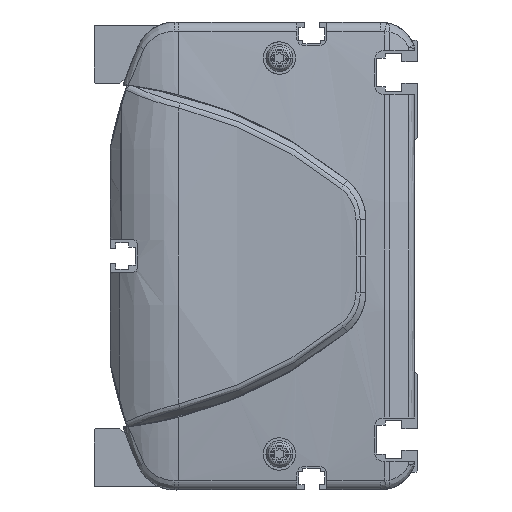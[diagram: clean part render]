
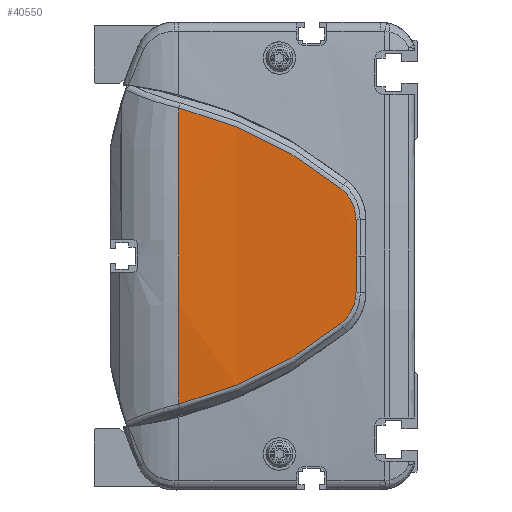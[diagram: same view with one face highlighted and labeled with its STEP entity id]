
A CAD part, left-side view. The second image highlights one B-rep face of the part: STEP entity #40550.
In plain terms, the highlighted cylindrical face has radius 500 mm (diameter 1000 mm), a partial arc.
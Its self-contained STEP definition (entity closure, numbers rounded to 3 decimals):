
#36806=CARTESIAN_POINT('',(486.,66.362,0.));
#36807=DIRECTION('',(0.,-1.,0.));
#36808=DIRECTION('',(-0.997,0.,0.082));
#36809=AXIS2_PLACEMENT_3D('',#36806,#36807,#36808);
#37690=CARTESIAN_POINT('',(-13.648,21.313,
-18.759));
#37691=CARTESIAN_POINT('',(-13.449,27.904,
-24.058));
#37692=CARTESIAN_POINT('',(-12.934,42.195,
-33.27));
#37693=CARTESIAN_POINT('',(-12.471,58.156,
-39.127));
#37694=CARTESIAN_POINT('',(-12.306,66.362,
-41.121));
#37696=CARTESIAN_POINT('',(-12.306,66.362,
41.121));
#37697=CARTESIAN_POINT('',(-12.471,58.156,
39.127));
#37698=CARTESIAN_POINT('',(-12.934,42.195,
33.27));
#37699=CARTESIAN_POINT('',(-13.449,27.904,
24.058));
#37700=CARTESIAN_POINT('',(-13.648,21.313,
18.759));
#37702=CARTESIAN_POINT('',(-13.648,21.313,
18.759));
#37703=CARTESIAN_POINT('',(-13.686,20.035,
17.736));
#37704=CARTESIAN_POINT('',(-13.779,17.936,
15.107));
#37705=CARTESIAN_POINT('',(-13.863,17.152,
11.827));
#37706=CARTESIAN_POINT('',(-13.896,17.124,
10.178));
#37708=CARTESIAN_POINT('',(-13.896,17.124,
10.178));
#37709=CARTESIAN_POINT('',(-13.92,17.107,
9.027));
#37710=CARTESIAN_POINT('',(-13.958,17.067,
6.737));
#37711=CARTESIAN_POINT('',(-13.993,16.98,
3.343));
#37712=CARTESIAN_POINT('',(-14.,16.898,
1.109));
#37713=CARTESIAN_POINT('',(-14.,16.849,
0.));
#37715=CARTESIAN_POINT('',(-14.,16.849,
0.));
#37716=CARTESIAN_POINT('',(-14.,16.898,
-1.109));
#37717=CARTESIAN_POINT('',(-13.993,16.98,
-3.343));
#37718=CARTESIAN_POINT('',(-13.959,17.067,
-6.736));
#37719=CARTESIAN_POINT('',(-13.92,17.107,
-9.029));
#37720=CARTESIAN_POINT('',(-13.896,17.124,
-10.18));
#37722=CARTESIAN_POINT('',(-13.896,17.124,
-10.18));
#37723=CARTESIAN_POINT('',(-13.863,17.152,
-11.828));
#37724=CARTESIAN_POINT('',(-13.779,17.937,
-15.109));
#37725=CARTESIAN_POINT('',(-13.686,20.035,
-17.736));
#37726=CARTESIAN_POINT('',(-13.648,21.313,
-18.759));
#38374=VERTEX_POINT('',#37690);
#38375=VERTEX_POINT('',#37694);
#38376=CARTESIAN_POINT('',(-12.306,66.362,
41.121));
#38377=VERTEX_POINT('',#38376);
#38378=VERTEX_POINT('',#37700);
#38379=VERTEX_POINT('',#37706);
#38380=VERTEX_POINT('',#37713);
#38381=VERTEX_POINT('',#37720);
#40531=CARTESIAN_POINT('',(486.,8.006,0.));
#40532=DIRECTION('',(0.,1.,0.));
#40533=DIRECTION('',(1.,0.,0.));
#40534=AXIS2_PLACEMENT_3D('',#40531,#40532,#40533);
#40535=CYLINDRICAL_SURFACE('',#40534,500.);
#40537=ORIENTED_EDGE('',*,*,#40536,.T.);
#40538=ORIENTED_EDGE('',*,*,#39176,.F.);
#40540=ORIENTED_EDGE('',*,*,#40539,.T.);
#40542=ORIENTED_EDGE('',*,*,#40541,.T.);
#40544=ORIENTED_EDGE('',*,*,#40543,.T.);
#40546=ORIENTED_EDGE('',*,*,#40545,.T.);
#40547=ORIENTED_EDGE('',*,*,#40521,.T.);
#40548=EDGE_LOOP('',(#40537,#40538,#40540,#40542,#40544,#40546,#40547));
#40549=FACE_OUTER_BOUND('',#40548,.F.);
#40550=ADVANCED_FACE('',(#40549),#40535,.T.);
#36810=CIRCLE('',#36809,500.);
#37695=B_SPLINE_CURVE_WITH_KNOTS('',3,(#37690,#37691,#37692,#37693,#37694),
.UNSPECIFIED.,.F.,.F.,(4,1,4),(0.,0.5,1.),.UNSPECIFIED.);
#37701=B_SPLINE_CURVE_WITH_KNOTS('',3,(#37696,#37697,#37698,#37699,#37700),
.UNSPECIFIED.,.F.,.F.,(4,1,4),(0.,0.5,1.),.UNSPECIFIED.);
#37707=B_SPLINE_CURVE_WITH_KNOTS('',3,(#37702,#37703,#37704,#37705,#37706),
.UNSPECIFIED.,.F.,.F.,(4,1,4),(0.,0.5,1.),.UNSPECIFIED.);
#37714=B_SPLINE_CURVE_WITH_KNOTS('',3,(#37708,#37709,#37710,#37711,#37712,
#37713),.UNSPECIFIED.,.F.,.F.,(4,1,1,4),(0.,0.333,
0.667,1.),.UNSPECIFIED.);
#37721=B_SPLINE_CURVE_WITH_KNOTS('',3,(#37715,#37716,#37717,#37718,#37719,
#37720),.UNSPECIFIED.,.F.,.F.,(4,1,1,4),(0.,0.333,
0.667,1.),.UNSPECIFIED.);
#37727=B_SPLINE_CURVE_WITH_KNOTS('',3,(#37722,#37723,#37724,#37725,#37726),
.UNSPECIFIED.,.F.,.F.,(4,1,4),(0.,0.5,1.),.UNSPECIFIED.);
#39176=EDGE_CURVE('',#38377,#38375,#36810,.T.);
#40521=EDGE_CURVE('',#38381,#38374,#37727,.T.);
#40536=EDGE_CURVE('',#38374,#38375,#37695,.T.);
#40539=EDGE_CURVE('',#38377,#38378,#37701,.T.);
#40541=EDGE_CURVE('',#38378,#38379,#37707,.T.);
#40543=EDGE_CURVE('',#38379,#38380,#37714,.T.);
#40545=EDGE_CURVE('',#38380,#38381,#37721,.T.);
